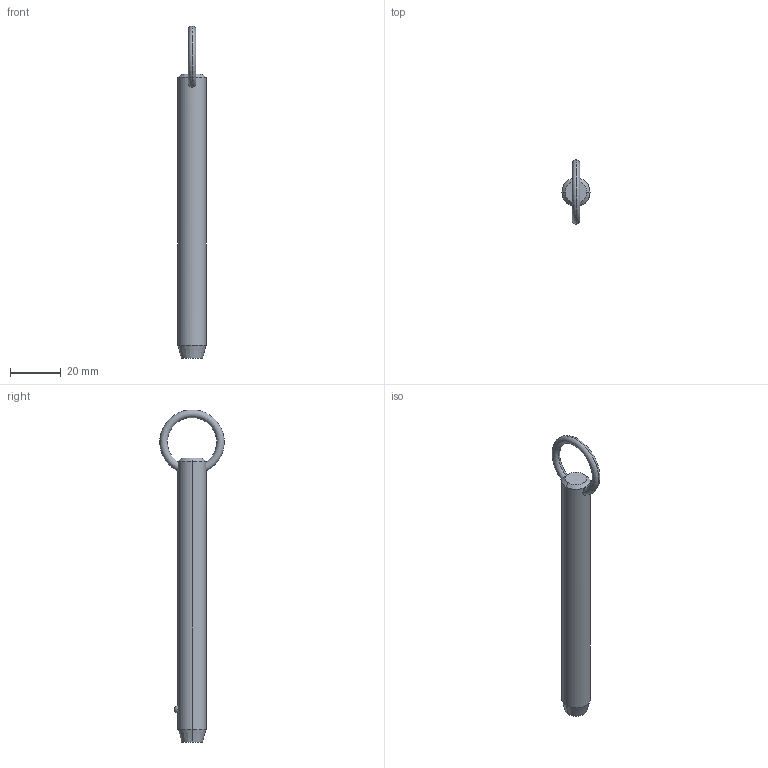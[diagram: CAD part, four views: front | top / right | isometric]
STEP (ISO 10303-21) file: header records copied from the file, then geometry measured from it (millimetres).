
FILE_DESCRIPTION (( 'STEP AP203' ), '1' );
FILE_NAME ('P1250.050-360.step', '2019-07-29T20:35:10', ( '' ), ( '' ), 'SwSTEP 2.0', 'SolidWorks 2017', '' );
FILE_SCHEMA (( 'CONFIG_CONTROL_DESIGN' ));
Length unit declared in the file: millimetre
Products named in the file (1): P1250.050-360
Bounding box: 11.1 x 25.32 x 130.95 mm (x, y, z)
Volume: 11120.8 mm3; surface area: 4558.3 mm2
Topology: 1 solids, 1 shells, 12 faces, 28 edges, 17 vertices
Faces by surface type: cone 4, torus 2, sphere 2, cylinder 2, plane 2
Entity records: 523 total; most frequent: CARTESIAN_POINT 190, DIRECTION 56, ORIENTED_EDGE 48, AXIS2_PLACEMENT_3D 25, EDGE_CURVE 24, EDGE_LOOP 15, VERTEX_POINT 15, CIRCLE 12
